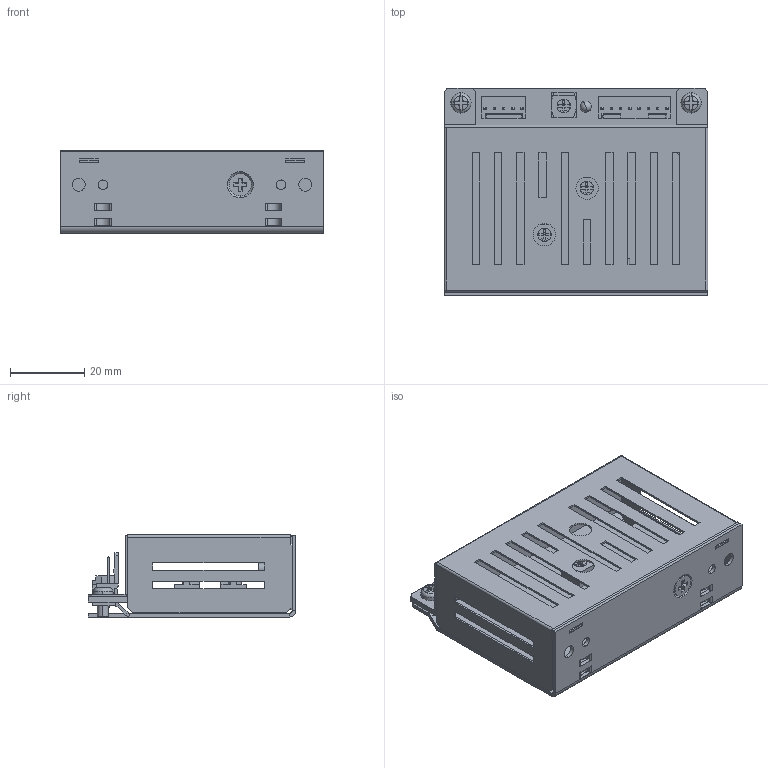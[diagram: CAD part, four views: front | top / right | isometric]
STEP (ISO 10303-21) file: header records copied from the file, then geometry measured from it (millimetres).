
FILE_DESCRIPTION (( 'STEP AP214' ), '1' );
FILE_NAME ('D6030_Driver_STEP.STEP', '2012-03-19T08:51:25', ( '' ), ( '' ), 'SwSTEP 2.0', 'SolidWorks 2012', '' );
FILE_SCHEMA (( 'AUTOMOTIVE_DESIGN' ));
Length unit declared in the file: millimetre
Products named in the file (1): D6030_Driver_STEP
Bounding box: 71 x 56 x 22.1 mm (x, y, z)
Surface area: 32814.2 mm2 (no closed solid volume)
Topology: 0 solids, 33 shells, 542 faces, 1797 edges, 1259 vertices
Faces by surface type: plane 443, cylinder 67, cone 22, bspline 8, sphere 2
Entity records: 25414 total; most frequent: CARTESIAN_POINT 3867, DIRECTION 3102, ORIENTED_EDGE 2921, EDGE_CURVE 1797, LINE 1474, VECTOR 1474, VERTEX_POINT 1259, AXIS2_PLACEMENT_3D 814
